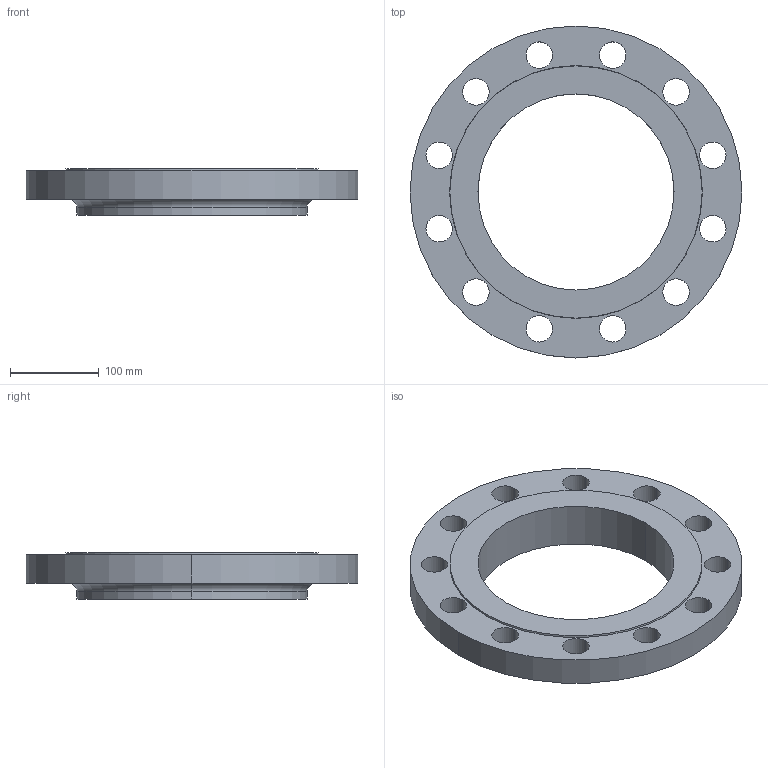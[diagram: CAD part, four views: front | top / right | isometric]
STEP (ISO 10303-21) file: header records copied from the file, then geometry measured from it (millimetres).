
FILE_DESCRIPTION (( 'STEP AP214' ), '1' );
FILE_NAME ('PN40 DN200 Type 12 - Type B Face.STEP', '2019-01-05T02:17:01', ( '' ), ( '' ), 'SwSTEP 2.0', 'SolidWorks 2019', '' );
FILE_SCHEMA (( 'AUTOMOTIVE_DESIGN' ));
Length unit declared in the file: millimetre
Products named in the file (1): PN40 DN200 Type 12 - Type B Face
Bounding box: 375 x 375 x 52 mm (x, y, z)
Volume: 2360527.9 mm3; surface area: 249682.7 mm2
Topology: 1 solids, 1 shells, 38 faces, 100 edges, 66 vertices
Faces by surface type: cylinder 30, plane 4, torus 2, cone 2
Entity records: 1302 total; most frequent: DIRECTION 246, CARTESIAN_POINT 205, ORIENTED_EDGE 200, AXIS2_PLACEMENT_3D 107, EDGE_CURVE 100, CIRCLE 68, EDGE_LOOP 66, VERTEX_POINT 66
